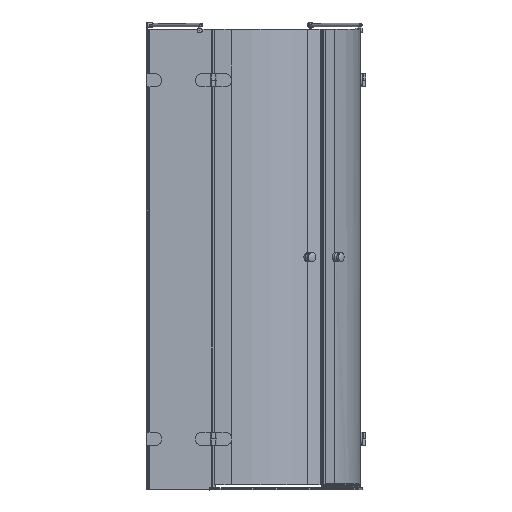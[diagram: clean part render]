
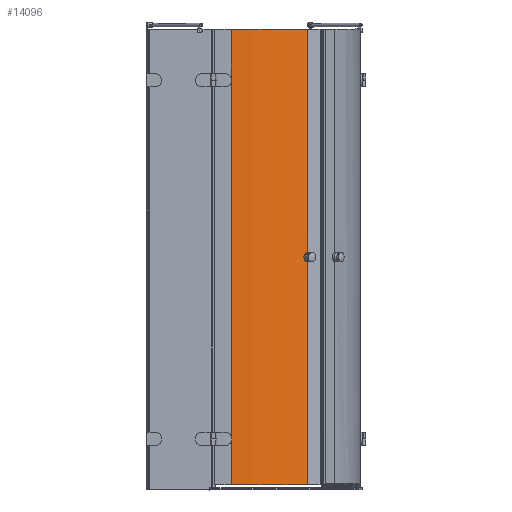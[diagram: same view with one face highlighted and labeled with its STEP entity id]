
A CAD part, front view. The second image highlights one B-rep face of the part: STEP entity #14096.
In plain terms, the highlighted cylindrical face has radius 530 mm (diameter 1060 mm), a partial arc.
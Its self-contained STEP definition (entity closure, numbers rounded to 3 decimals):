
#382=LINE($,#20682,#1596);
#386=LINE($,#20694,#1600);
#390=LINE($,#20701,#1604);
#1282=LINE($,#24796,#2496);
#1283=LINE($,#24797,#2497);
#1596=VECTOR($,#16480,1479.85);
#1600=VECTOR($,#16488,209.925);
#1604=VECTOR($,#16492,189.925);
#2496=VECTOR($,#19292,934.5);
#2497=VECTOR($,#19293,934.5);
#2518=B_SPLINE_CURVE_WITH_KNOTS($,3,(#20611,#20612,#20613,#20614),
 .UNSPECIFIED.,.F.,.F.,(4,4),(7.841,7.849),
 .UNSPECIFIED.);
#2519=B_SPLINE_CURVE_WITH_KNOTS($,3,(#20616,#20617,#20618,#20619),
 .UNSPECIFIED.,.F.,.F.,(4,4),(7.834,7.841),
 .UNSPECIFIED.);
#2522=B_SPLINE_CURVE_WITH_KNOTS($,3,(#20789,#20790,#20791,#20792),
 .UNSPECIFIED.,.F.,.F.,(4,4),(7.841,7.849),
 .UNSPECIFIED.);
#2523=B_SPLINE_CURVE_WITH_KNOTS($,3,(#20793,#20794,#20795,#20796),
 .UNSPECIFIED.,.F.,.F.,(4,4),(7.834,7.841),
 .UNSPECIFIED.);
#2575=B_SPLINE_CURVE_WITH_KNOTS($,3,(#24768,#24769,#24770,#24771,#24772,
#24773,#24774,#24775,#24776,#24777,#24778,#24779,#24780,#24781,#24782,#24783,
#24784,#24785,#24786,#24787),.UNSPECIFIED.,.F.,.F.,(4,2,2,2,2,2,2,2,2,4),
(0.,0.214,0.432,0.65,0.868,
1.078,1.284,1.492,1.61,1.728),
 .UNSPECIFIED.);
#2811=CYLINDRICAL_SURFACE($,#15440,530.);
#3705=FACE_OUTER_BOUND($,#4559,.T.);
#4559=EDGE_LOOP($,(#12089,#12090,#12091,#12092,#12093,#12094,#12095,#12096,
#12097,#12098,#12099,#12100));
#5166=CIRCLE($,#15437,530.);
#5167=CIRCLE($,#15439,530.);
#5501=VERTEX_POINT($,#20608);
#5502=VERTEX_POINT($,#20610);
#5503=VERTEX_POINT($,#20615);
#5522=VERTEX_POINT($,#20681);
#5527=VERTEX_POINT($,#20691);
#5528=VERTEX_POINT($,#20693);
#5531=VERTEX_POINT($,#20699);
#5559=VERTEX_POINT($,#20788);
#6011=VERTEX_POINT($,#22586);
#6293=VERTEX_POINT($,#23612);
#6428=VERTEX_POINT($,#24765);
#6429=VERTEX_POINT($,#24767);
#6888=EDGE_CURVE($,#5502,#5501,#2518,.T.);
#6889=EDGE_CURVE($,#5503,#5502,#2519,.T.);
#6920=EDGE_CURVE($,#5503,#5522,#382,.T.);
#6926=EDGE_CURVE($,#5527,#5528,#386,.T.);
#6930=EDGE_CURVE($,#5531,#5501,#390,.T.);
#6970=EDGE_CURVE($,#5559,#5522,#2522,.T.);
#6971=EDGE_CURVE($,#5527,#5559,#2523,.T.);
#8323=EDGE_CURVE($,#6429,#6428,#2575,.T.);
#8325=EDGE_CURVE($,#5531,#6293,#5166,.T.);
#8328=EDGE_CURVE($,#6011,#5528,#5167,.T.);
#8329=EDGE_CURVE($,#6429,#6293,#1282,.T.);
#8330=EDGE_CURVE($,#6011,#6428,#1283,.T.);
#12089=ORIENTED_EDGE($,*,*,#6888,.T.);
#12090=ORIENTED_EDGE($,*,*,#6930,.F.);
#12091=ORIENTED_EDGE($,*,*,#8325,.T.);
#12092=ORIENTED_EDGE($,*,*,#8329,.F.);
#12093=ORIENTED_EDGE($,*,*,#8323,.T.);
#12094=ORIENTED_EDGE($,*,*,#8330,.F.);
#12095=ORIENTED_EDGE($,*,*,#8328,.T.);
#12096=ORIENTED_EDGE($,*,*,#6926,.F.);
#12097=ORIENTED_EDGE($,*,*,#6971,.T.);
#12098=ORIENTED_EDGE($,*,*,#6970,.T.);
#12099=ORIENTED_EDGE($,*,*,#6920,.F.);
#12100=ORIENTED_EDGE($,*,*,#6889,.T.);
#14096=ADVANCED_FACE($,(#3705),#2811,.T.);
#15437=AXIS2_PLACEMENT_3D($,#24790,#19282,#19283);
#15439=AXIS2_PLACEMENT_3D($,#24794,#19288,#19289);
#15440=AXIS2_PLACEMENT_3D($,#24795,#19290,#19291);
#16480=DIRECTION($,(0.,0.,1.));
#16488=DIRECTION($,(0.,0.,1.));
#16492=DIRECTION($,(0.,0.,1.));
#19282=DIRECTION('center_axis',(0.,0.,
1.));
#19283=DIRECTION('ref_axis',(0.,-1.,0.));
#19288=DIRECTION('center_axis',(0.,0.,
-1.));
#19289=DIRECTION('ref_axis',(0.,-1.,0.));
#19290=DIRECTION('center_axis',(0.,0.,
1.));
#19291=DIRECTION('ref_axis',(0.,-1.,0.));
#19292=DIRECTION($,(0.,0.,-1.));
#19293=DIRECTION($,(0.,0.,-1.));
#20608=CARTESIAN_POINT('',(801.733,-134.044,-304.13));
#20610=CARTESIAN_POINT('',(801.733,-134.044,-304.056));
#20611=CARTESIAN_POINT('Ctrl Pts',(801.733,-134.044,-304.056));
#20612=CARTESIAN_POINT('Ctrl Pts',(801.733,-134.044,-304.08));
#20613=CARTESIAN_POINT('Ctrl Pts',(801.733,-134.044,-304.105));
#20614=CARTESIAN_POINT('Ctrl Pts',(801.733,-134.044,-304.13));
#20615=CARTESIAN_POINT('',(801.733,-134.044,-303.981));
#20616=CARTESIAN_POINT('Ctrl Pts',(801.733,-134.044,-303.981));
#20617=CARTESIAN_POINT('Ctrl Pts',(801.733,-134.044,-304.006));
#20618=CARTESIAN_POINT('Ctrl Pts',(801.733,-134.044,-304.031));
#20619=CARTESIAN_POINT('Ctrl Pts',(801.733,-134.044,-304.056));
#20681=CARTESIAN_POINT('',(801.733,-134.044,1175.87));
#20682=CARTESIAN_POINT($,(801.733,-134.044,915.944));
#20691=CARTESIAN_POINT('',(801.733,-134.044,1176.019));
#20693=CARTESIAN_POINT('',(801.733,-134.044,1385.944));
#20694=CARTESIAN_POINT($,(801.733,-134.044,915.944));
#20699=CARTESIAN_POINT('',(801.733,-134.044,-494.056));
#20701=CARTESIAN_POINT($,(801.733,-134.044,915.944));
#20788=CARTESIAN_POINT('',(801.733,-134.044,1175.944));
#20789=CARTESIAN_POINT('Ctrl Pts',(801.733,-134.044,1175.944));
#20790=CARTESIAN_POINT('Ctrl Pts',(801.733,-134.044,1175.92));
#20791=CARTESIAN_POINT('Ctrl Pts',(801.733,-134.044,1175.895));
#20792=CARTESIAN_POINT('Ctrl Pts',(801.733,-134.044,1175.87));
#20793=CARTESIAN_POINT('Ctrl Pts',(801.733,-134.044,1176.019));
#20794=CARTESIAN_POINT('Ctrl Pts',(801.733,-134.044,1175.994));
#20795=CARTESIAN_POINT('Ctrl Pts',(801.733,-134.044,1175.969));
#20796=CARTESIAN_POINT('Ctrl Pts',(801.733,-134.044,1175.944));
#22586=CARTESIAN_POINT('',(1115.479,-31.201,1385.944));
#23612=CARTESIAN_POINT('',(1115.479,-31.201,-494.056));
#24765=CARTESIAN_POINT('',(1115.479,-31.201,451.444));
#24767=CARTESIAN_POINT('',(1115.479,-31.201,440.444));
#24768=CARTESIAN_POINT('Ctrl Pts',(1115.479,-31.201,440.444));
#24769=CARTESIAN_POINT('Ctrl Pts',(1114.904,-31.624,440.444));
#24770=CARTESIAN_POINT('Ctrl Pts',(1114.333,-32.042,440.583));
#24771=CARTESIAN_POINT('Ctrl Pts',(1113.251,-32.83,441.131));
#24772=CARTESIAN_POINT('Ctrl Pts',(1112.754,-33.19,441.54));
#24773=CARTESIAN_POINT('Ctrl Pts',(1111.919,-33.794,442.571));
#24774=CARTESIAN_POINT('Ctrl Pts',(1111.588,-34.032,443.182));
#24775=CARTESIAN_POINT('Ctrl Pts',(1111.14,-34.355,444.529));
#24776=CARTESIAN_POINT('Ctrl Pts',(1111.026,-34.437,445.251));
#24777=CARTESIAN_POINT('Ctrl Pts',(1111.033,-34.432,446.683));
#24778=CARTESIAN_POINT('Ctrl Pts',(1111.146,-34.35,447.378));
#24779=CARTESIAN_POINT('Ctrl Pts',(1111.574,-34.043,448.665));
#24780=CARTESIAN_POINT('Ctrl Pts',(1111.88,-33.822,449.246));
#24781=CARTESIAN_POINT('Ctrl Pts',(1112.654,-33.263,450.246));
#24782=CARTESIAN_POINT('Ctrl Pts',(1113.117,-32.927,450.654));
#24783=CARTESIAN_POINT('Ctrl Pts',(1113.919,-32.343,451.109));
#24784=CARTESIAN_POINT('Ctrl Pts',(1114.224,-32.121,451.235));
#24785=CARTESIAN_POINT('Ctrl Pts',(1114.846,-31.666,451.402));
#24786=CARTESIAN_POINT('Ctrl Pts',(1115.162,-31.434,451.445));
#24787=CARTESIAN_POINT('Ctrl Pts',(1115.479,-31.201,451.444));
#24790=CARTESIAN_POINT('Origin',(801.733,395.956,-494.056));
#24794=CARTESIAN_POINT('Origin',(801.733,395.956,1385.944));
#24795=CARTESIAN_POINT('Origin',(801.733,395.956,445.944));
#24796=CARTESIAN_POINT($,(1115.479,-31.201,-24.056));
#24797=CARTESIAN_POINT($,(1115.479,-31.201,448.694));
